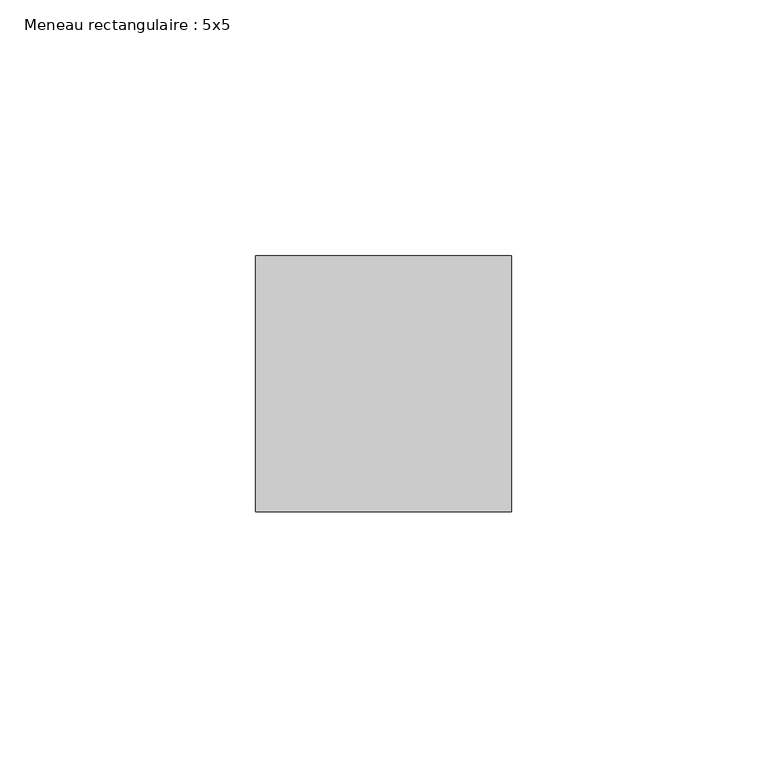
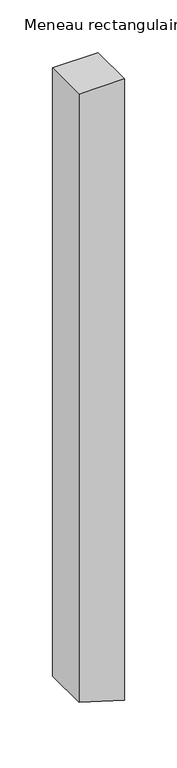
"""IFC4 building model written with IfcOpenShell, lengths in millimetres: member geometry, Meneau rectangulaire : 5x5."""

from ifc_helpers import new_model, si_unit, frame, origin, place, context, project, spatial, polyline, outline, extrude, source, transform, mapped, element, save


def meneau_rectangulaire_5x5_40edd3d0(model_context):
    return source(origin(), model_context, "Body", "SweptSolid", [
        extrude(outline(polyline([(0.0, 0.0), (0.0, -50.0), (-704.0747498, -50.0), (-719.0747498, 0.0), (0.0, 0.0)])), frame((0.0, -25.0, 0.0), z_axis=(0.0, 1.0, 0.0), x_axis=(0.0, 0.0, 1.0)), (0.0, 0.0, 1.0), 50.0),
    ])


if __name__ == "__main__":
    model = new_model("IFC4")
    model_context = context("Model", 3, world=origin())
    ifc_project = project(units=[si_unit("LENGTHUNIT", "METRE", prefix="MILLI")], contexts=[model_context])
    site = spatial("IfcSite", under=ifc_project)
    building = spatial("IfcBuilding", under=site)
    placement = place(None, origin())
    meneau_rectangulaire_5x5_shape = meneau_rectangulaire_5x5_40edd3d0(model_context)
    element("IfcMember", 1, ObjectType="Meneau rectangulaire : 5x5", at=placement, inside=building, context=model_context, shape_type="MappedRepresentation", body=[
        mapped(meneau_rectangulaire_5x5_shape, transform((0.0, 0.0, 0.0), x_axis=(1.0, 0.0, 0.0), y_axis=(0.0, 1.0, 0.0), z_axis=(0.0, 0.0, 1.0))),
    ])
    save(model, "model.ifc")
